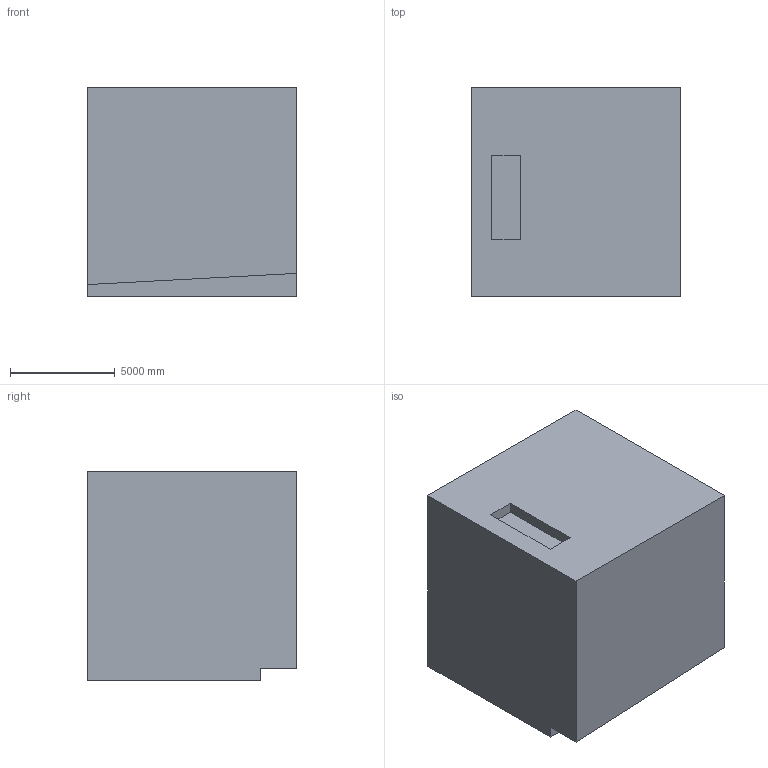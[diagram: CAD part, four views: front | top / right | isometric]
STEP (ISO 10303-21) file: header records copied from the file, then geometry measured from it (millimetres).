
FILE_DESCRIPTION (( 'STEP AP203' ), '1' );
FILE_NAME ('120.STEP', '2022-09-05T15:36:10', ( 'user' ), ( '' ), 'SwSTEP 2.0', 'SolidWorks 2021', '' );
FILE_SCHEMA (( 'CONFIG_CONTROL_DESIGN' ));
Length unit declared in the file: centimetre
Products named in the file (1): 120
Bounding box: 10000 x 10000 x 10000 mm (x, y, z)
Volume: 927028902041.3 mm3; surface area: 689859663.4 mm2
Topology: 1 solids, 1 shells, 17 faces, 39 edges, 26 vertices
Faces by surface type: plane 17
Entity records: 550 total; most frequent: CARTESIAN_POINT 83, ORIENTED_EDGE 78, DIRECTION 75, VECTOR 39, EDGE_CURVE 39, LINE 39, VERTEX_POINT 26, EDGE_LOOP 19
